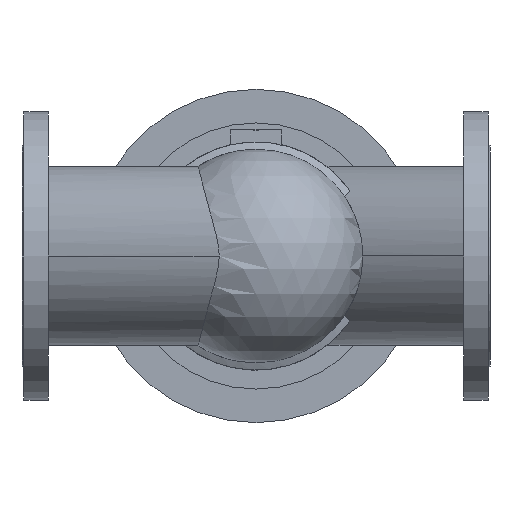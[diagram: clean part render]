
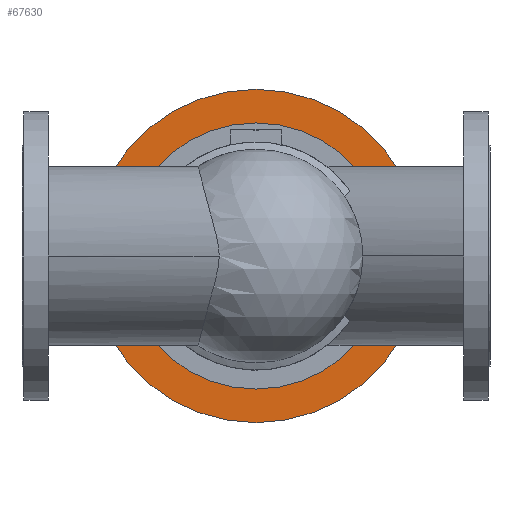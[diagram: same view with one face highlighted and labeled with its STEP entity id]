
A CAD part, front view. The second image highlights one B-rep face of the part: STEP entity #67630.
In plain terms, the highlighted planar face has unit normal (0, -1, 0).
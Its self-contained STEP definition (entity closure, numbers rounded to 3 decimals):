
#56730=CARTESIAN_POINT('',(158.5,825.06,0.));
#56740=VERTEX_POINT('',#56730);
#56770=CARTESIAN_POINT('',(365.,825.06,0.));
#56780=DIRECTION('',(0.,1.,0.));
#56790=DIRECTION('',(1.,0.,0.));
#56800=AXIS2_PLACEMENT_3D('',#56770,#56780,#56790);
#56810=CIRCLE('',#56800,206.5);
#56820=CARTESIAN_POINT('',(571.5,825.06,0.));
#56830=VERTEX_POINT('',#56820);
#56840=EDGE_CURVE('',#56740,#56830,#56810,.T.);
#67250=CARTESIAN_POINT('',(105.,825.06,0.));
#67260=VERTEX_POINT('',#67250);
#67340=CARTESIAN_POINT('',(625.,825.06,0.));
#67350=VERTEX_POINT('',#67340);
#67380=CARTESIAN_POINT('',(365.,825.06,0.));
#67390=DIRECTION('',(0.,1.,0.));
#67400=DIRECTION('',(1.,0.,0.));
#67410=AXIS2_PLACEMENT_3D('',#67380,#67390,#67400);
#67420=CIRCLE('',#67410,260.);
#67430=EDGE_CURVE('',#67260,#67350,#67420,.T.);
#67480=CARTESIAN_POINT('',(598.25,825.06,0.));
#67490=DIRECTION('',(0.,-1.,0.));
#67500=DIRECTION('',(-1.,0.,0.));
#67510=AXIS2_PLACEMENT_3D('',#67480,#67490,#67500);
#67520=PLANE('',#67510);
#67530=EDGE_CURVE('',#67350,#67260,#67420,.T.);
#67540=ORIENTED_EDGE('',*,*,#67530,.F.);
#67550=ORIENTED_EDGE('',*,*,#67430,.F.);
#67560=EDGE_LOOP('',(#67550,#67540));
#67570=FACE_OUTER_BOUND('',#67560,.T.);
#67580=ORIENTED_EDGE('',*,*,#56840,.T.);
#67590=EDGE_CURVE('',#56830,#56740,#56810,.T.);
#67600=ORIENTED_EDGE('',*,*,#67590,.T.);
#67610=EDGE_LOOP('',(#67600,#67580));
#67620=FACE_BOUND('',#67610,.T.);
#67630=ADVANCED_FACE('',(#67570,#67620),#67520,.T.);
